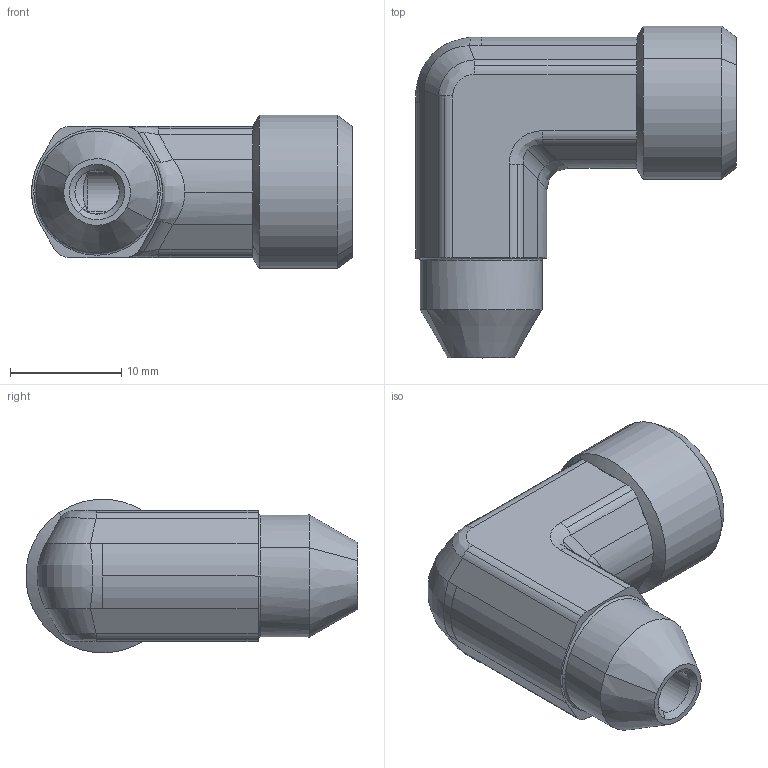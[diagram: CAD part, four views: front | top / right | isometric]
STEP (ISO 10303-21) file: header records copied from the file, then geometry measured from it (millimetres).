
FILE_DESCRIPTION((''),'2;1');
FILE_NAME('105814.stp','2007-10-31T14:42:14',(''),(''),'AutoCAD STEP 2000i','AutoCAD 2000i',', , ');
FILE_SCHEMA(('CONFIG_CONTROL_DESIGN'));
Length unit declared in the file: millimetre
Products named in the file (2): 105814.0; 3090#0
Assembly tree (1 placements, depth 2):
  105814.0
    3090#0
Bounding box: 28.9 x 29.9 x 13.8 mm (x, y, z)
Volume: 4486.6 mm3; surface area: 2527.6 mm2
Topology: 1 solids, 1 shells, 96 faces, 224 edges, 132 vertices
Faces by surface type: cylinder 42, plane 22, cone 18, bspline 14
Entity records: 3589 total; most frequent: CARTESIAN_POINT 1281, DIRECTION 494, ORIENTED_EDGE 448, EDGE_CURVE 224, AXIS2_PLACEMENT_3D 205, VERTEX_POINT 132, CIRCLE 102, EDGE_LOOP 100
